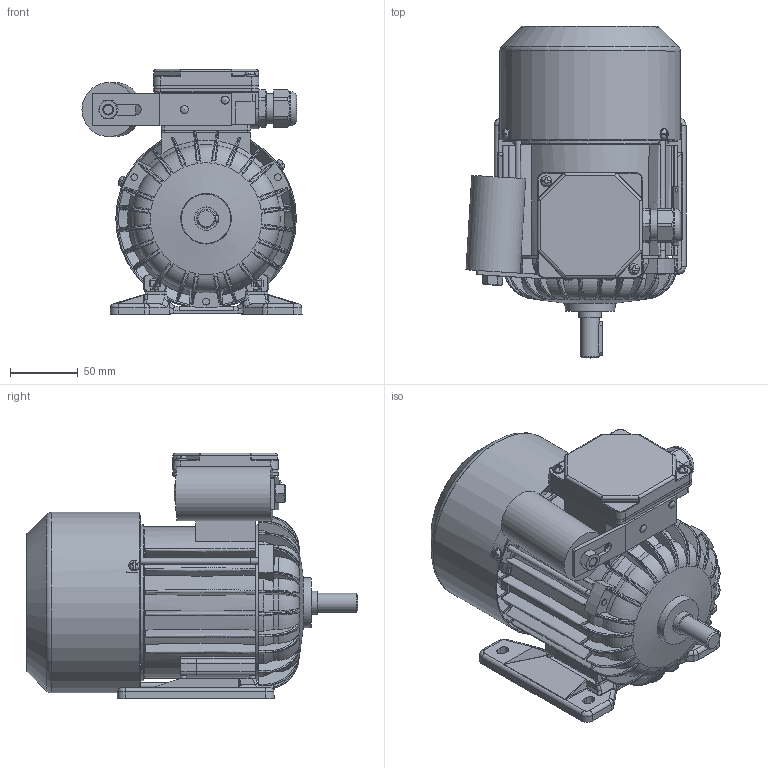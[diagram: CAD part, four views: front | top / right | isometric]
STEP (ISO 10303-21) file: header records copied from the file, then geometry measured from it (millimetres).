
FILE_DESCRIPTION( ( 'Unknown' ), '1' );
FILE_NAME( 'G:/Poczta Tk-1/STP/w.m.71/SEh71/SEh71-.B.stp', 'Unknown', ( 'K. Szlosek' ), ( 'BESEL S.A.' ), 'PSStep 17.0.49', 'Unknown', ' ' );
FILE_SCHEMA( ( 'AUTOMOTIVE_DESIGN { 1 0 10303 214 1 1 1 1 }' ) );
Length unit declared in the file: millimetre
Products named in the file (34): Assem1; K4-2820 Uszczelka nr 2 Sh71,80; K2-1933 Tarcza łożyskowa N S(E,M)h71-; K3-6469 Tarcza łożyskowa P S(E,M)h71-B,C; Wpust A5x5x25; Wkręt samogwintujący M4x8; K2-1131 Podstawa skrzynki zaciskowej jednofazowa; K4-2999 Uchwyt kondensatora; Kondensator zb 11-16uF Comar; nakrętka M8; K1-1194 Kadłub z zamkami Sh71-.B; K3-2975 Osłona przewietrznika Sh71-.B,C; K3-3984 Przewietrznik Sh71; K2-0860 Pokrywka skrzynki zaciskowej; K4-2320 Uszczelka nr 1 Sh71,80; K3-4502 wał standard Sh71-B; K1-0448 Łapa Sh71-.. ; Nitokołek A 2x6; Dławnica M20x1,5; Łożysko 6203; Śruba ściągająca E_M5x110; Tabliczka znamionowa 32x44; Wkręt samogwintujący M4x16; K4-0898 Tulejka uszczelniająca; Nit 4x12 po skróceniu
Assembly tree (50 placements, depth 2):
  Assem1
    K4-2820 Uszczelka nr 2 Sh71,80
    K2-1933 Tarcza łożyskowa N S(E,M)h71-
    K3-6469 Tarcza łożyskowa P S(E,M)h71-B,C
    Wpust A5x5x25
    Wkręt samogwintujący M4x8  x3
    K2-1131 Podstawa skrzynki zaciskowej jednofazowa
    K4-2999 Uchwyt kondensatora
    Kondensator zb 11-16uF Comar
    nakrętka M8
    K1-1194 Kadłub z zamkami Sh71-.B
    K3-2975 Osłona przewietrznika Sh71-.B,C
    K3-3984 Przewietrznik Sh71
    K2-0860 Pokrywka skrzynki zaciskowej
    K4-2320 Uszczelka nr 1 Sh71,80
    K3-4502 wał standard Sh71-B
    K1-0448 Łapa Sh71-.. 
    Nitokołek A 2x6  x2
    Dławnica M20x1,5
    Łożysko 6203  x2
    Łożysko 6203  x2
    Łożysko 6203  x2
    Łożysko 6203  x2
    Łożysko 6203  x2
    Łożysko 6203  x2
    Łożysko 6203  x2
    Łożysko 6203  x2
    Łożysko 6203  x2
    Łożysko 6203  x2
    Śruba ściągająca E_M5x110  x3
    Tabliczka znamionowa 32x44
    Wkręt samogwintujący M4x16  x2
    K4-0898 Tulejka uszczelniająca
    Nit 4x12 po skróceniu  x2
Bounding box: 162.77 x 245.5 x 181.5 mm (x, y, z)
Volume: 739775.5 mm3; surface area: 457944.9 mm2
Topology: 50 solids, 66 shells, 3106 faces, 8351 edges, 5280 vertices
Faces by surface type: plane 1134, cylinder 822, bspline 614, torus 278, cone 208, sphere 50
Full cylindrical faces by diameter (mm): 2 x2, 2.4 x2, 3 x1, 3.7 x7, 3.8 x4, 4 x7, 4.2 x3, 4.3 x2, 4.5 x3, 4.6 x3, 4.8 x4, 5 x7, 5.5 x3, 5.8 x4, 6 x2, 6.5 x1, 6.647 x1, 7 x1, 8 x10, 10 x2, 14 x1, 15.9 x1, 16.1 x1, 16.5 x1, 17 x4, 17.4 x2, 18.376 x1, 18.38 x1, 20 x1, 22 x2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
Entity records: 206237 total; most frequent: CARTESIAN_POINT 114298, ORIENTED_EDGE 15124, DIRECTION 12797, EDGE_CURVE 7562, AXIS2_PLACEMENT_3D 4956, VERTEX_POINT 4940, EDGE_LOOP 3364, FACE_OUTER_BOUND 3047
